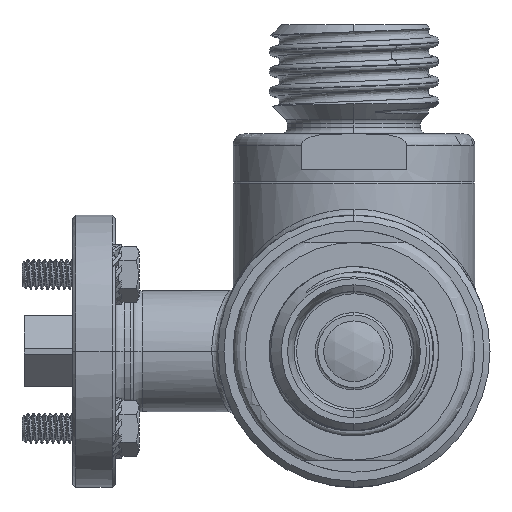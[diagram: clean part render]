
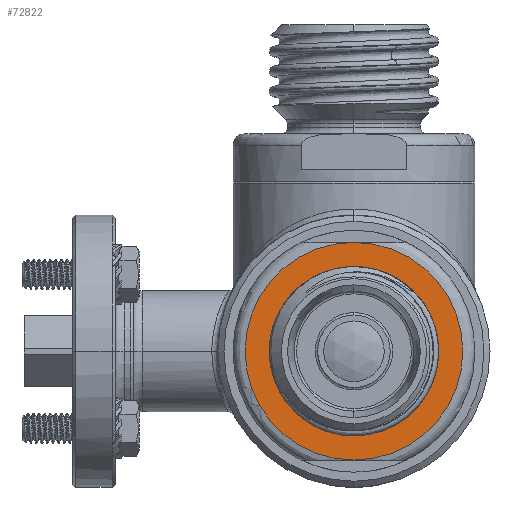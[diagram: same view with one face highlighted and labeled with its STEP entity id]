
A CAD part, left-side view. The second image highlights one B-rep face of the part: STEP entity #72822.
In plain terms, the highlighted planar face has unit normal (-1, 0, 0).
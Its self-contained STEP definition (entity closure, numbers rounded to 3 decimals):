
#36119=CARTESIAN_POINT('',(-36.,0.,0.));
#36120=DIRECTION('',(-1.,0.,0.));
#36121=DIRECTION('',(0.,0.,1.));
#36122=AXIS2_PLACEMENT_3D('',#36119,#36120,#36121);
#36186=CARTESIAN_POINT('',(-36.,0.,-18.));
#36208=CARTESIAN_POINT('',(-36.,0.,0.));
#36209=DIRECTION('',(-1.,0.,0.));
#36210=DIRECTION('',(0.,0.,-1.));
#36211=AXIS2_PLACEMENT_3D('',#36208,#36209,#36210);
#36216=CARTESIAN_POINT('',(-36.,0.,18.));
#36259=CARTESIAN_POINT('',(-36.,0.,0.));
#36260=DIRECTION('',(-1.,0.,0.));
#36261=DIRECTION('',(0.,0.,-1.));
#36262=AXIS2_PLACEMENT_3D('',#36259,#36260,#36261);
#36275=CARTESIAN_POINT('',(-36.,0.,0.));
#36276=DIRECTION('',(-1.,0.,0.));
#36277=DIRECTION('',(0.,0.,1.));
#36278=AXIS2_PLACEMENT_3D('',#36275,#36276,#36277);
#42531=CARTESIAN_POINT('',(-36.,0.,-12.));
#42532=CARTESIAN_POINT('',(-36.,0.,12.));
#42533=VERTEX_POINT('',#42531);
#42534=VERTEX_POINT('',#42532);
#42575=VERTEX_POINT('',#36216);
#42578=VERTEX_POINT('',#36186);
#72807=CARTESIAN_POINT('',(-36.,0.,0.));
#72808=DIRECTION('',(-1.,0.,0.));
#72809=DIRECTION('',(0.,-1.,0.));
#72810=AXIS2_PLACEMENT_3D('',#72807,#72808,#72809);
#72811=PLANE('',#72810);
#72812=ORIENTED_EDGE('',*,*,#72736,.F.);
#72813=ORIENTED_EDGE('',*,*,#72777,.F.);
#72814=EDGE_LOOP('',(#72812,#72813));
#72815=FACE_OUTER_BOUND('',#72814,.F.);
#72817=ORIENTED_EDGE('',*,*,#72816,.T.);
#72819=ORIENTED_EDGE('',*,*,#72818,.T.);
#72820=EDGE_LOOP('',(#72817,#72819));
#72821=FACE_BOUND('',#72820,.F.);
#72822=ADVANCED_FACE('',(#72815,#72821),#72811,.T.);
#36123=CIRCLE('',#36122,18.);
#36212=CIRCLE('',#36211,18.);
#36263=CIRCLE('',#36262,12.);
#36279=CIRCLE('',#36278,12.);
#72736=EDGE_CURVE('',#42575,#42578,#36123,.T.);
#72777=EDGE_CURVE('',#42578,#42575,#36212,.T.);
#72816=EDGE_CURVE('',#42533,#42534,#36263,.T.);
#72818=EDGE_CURVE('',#42534,#42533,#36279,.T.);
